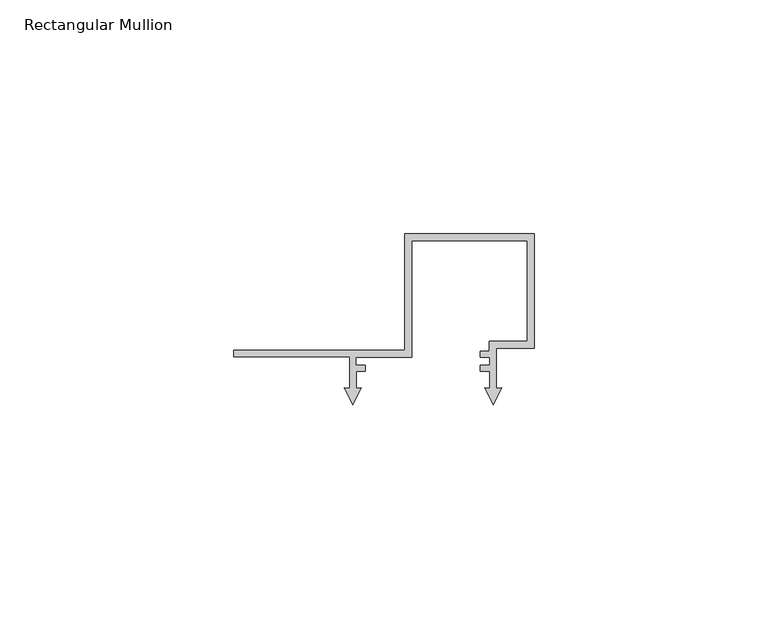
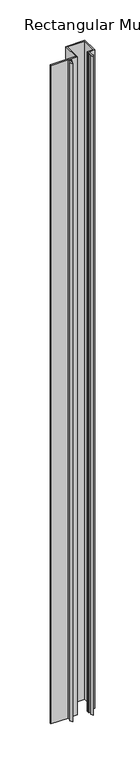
"""IFC4 building model written with IfcOpenShell, lengths in millimetres: member geometry, Rectangular Mullion : Renson_Linarte_LA-B25-01."""

from ifc_helpers import new_model, si_unit, frame, origin, place, context, project, spatial, polyline, outline, extrude, source, transform, mapped, element, save


def rectangular_mullion_84234f72(model_context):
    return source(origin(), model_context, "Body", "SweptSolid", [
        extrude(outline(polyline([(36.6500002, 61.6), (64.3500002, 61.6), (64.3500002, 37.0995654), (56.2091809, 37.0995654), (56.2091809, 28.5038205), (57.3249174, 28.6014348), (55.5091808, 25.0378474), (53.6934442, 28.6014348), (54.8091807, 28.5038206), (54.8091807, 32.198351), (52.8216175, 32.198351), (52.8216175, 33.4004386), (54.8, 33.4004386), (54.8, 35.1999954), (52.8211027, 35.1999954), (52.8211027, 36.4015214), (54.6997126, 36.4015214), (54.6997126, 38.5997951), (62.8500002, 38.5997951), (62.8500002, 60.0999997), (38.1500002, 60.0999997), (38.1500002, 35.1999997), (26.1000012, 35.1999997), (26.1000012, 33.4008281), (28.1922643, 33.4008281), (28.1922643, 32.1999997), (26.2000002, 32.1999997), (26.2000002, 28.5038204), (27.315738, 28.6014348), (25.5000014, 25.0378474), (23.6842647, 28.6014348), (24.8, 28.5038207), (24.8, 35.2056679), (0.0, 35.2056679), (0.0, 36.7004291), (36.6500002, 36.7004291), (36.6500002, 61.6)])), frame((0.0, 0.0, -1000.0), z_axis=(0.0, 0.0, 1.0), x_axis=(1.0, 0.0, 0.0)), (0.0, 0.0, 1.0), 1000.0),
    ])


if __name__ == "__main__":
    model = new_model("IFC4")
    model_context = context("Model", 3, world=origin())
    ifc_project = project(units=[si_unit("LENGTHUNIT", "METRE", prefix="MILLI")], contexts=[model_context])
    site = spatial("IfcSite", under=ifc_project)
    building = spatial("IfcBuilding", under=site)
    placement = place(None, origin())
    rectangular_mullion_shape = rectangular_mullion_84234f72(model_context)
    element("IfcMember", 1, ObjectType="Rectangular Mullion : Renson_Linarte_LA-B25-01", at=placement, inside=building, context=model_context, shape_type="MappedRepresentation", body=[
        mapped(rectangular_mullion_shape, transform((0.0, 0.0, 0.0), x_axis=(1.0, 0.0, 0.0), y_axis=(0.0, 1.0, 0.0), z_axis=(0.0, 0.0, 1.0))),
    ])
    save(model, "model.ifc")
